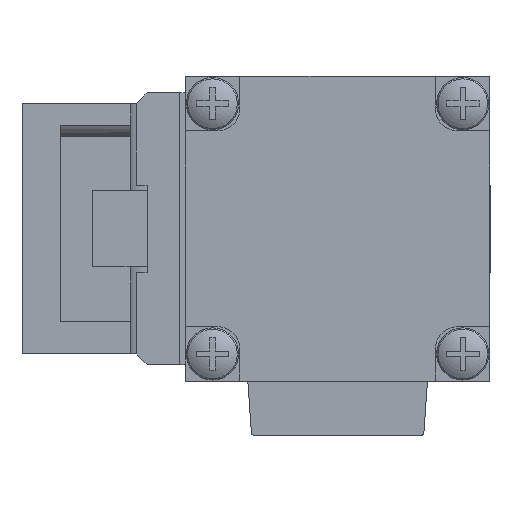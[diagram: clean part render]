
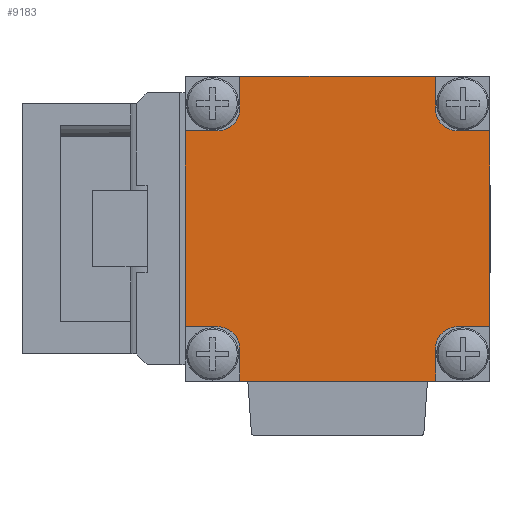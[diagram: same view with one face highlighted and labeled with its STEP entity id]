
A CAD part, left-side view. The second image highlights one B-rep face of the part: STEP entity #9183.
In plain terms, the highlighted planar face has unit normal (-1, 0, 0).
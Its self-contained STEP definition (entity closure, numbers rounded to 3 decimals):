
#307=CIRCLE('',#9806,2.);
#308=CIRCLE('',#9807,2.);
#309=CIRCLE('',#9808,2.);
#310=CIRCLE('',#9809,2.);
#986=ORIENTED_EDGE('',*,*,#3350,.F.);
#987=ORIENTED_EDGE('',*,*,#3489,.T.);
#988=ORIENTED_EDGE('',*,*,#3490,.F.);
#989=ORIENTED_EDGE('',*,*,#3491,.T.);
#990=ORIENTED_EDGE('',*,*,#3284,.F.);
#991=ORIENTED_EDGE('',*,*,#3492,.T.);
#992=ORIENTED_EDGE('',*,*,#3493,.F.);
#993=ORIENTED_EDGE('',*,*,#3494,.T.);
#994=ORIENTED_EDGE('',*,*,#3238,.F.);
#995=ORIENTED_EDGE('',*,*,#3495,.T.);
#996=ORIENTED_EDGE('',*,*,#3496,.F.);
#997=ORIENTED_EDGE('',*,*,#3497,.T.);
#998=ORIENTED_EDGE('',*,*,#3263,.F.);
#999=ORIENTED_EDGE('',*,*,#3498,.T.);
#1000=ORIENTED_EDGE('',*,*,#3499,.F.);
#1001=ORIENTED_EDGE('',*,*,#3500,.T.);
#3238=EDGE_CURVE('',#4522,#4523,#5395,.T.);
#3263=EDGE_CURVE('',#4546,#4547,#5418,.T.);
#3284=EDGE_CURVE('',#4566,#4567,#5437,.T.);
#3350=EDGE_CURVE('',#4628,#4629,#5501,.T.);
#3489=EDGE_CURVE('',#4628,#4725,#5593,.T.);
#3490=EDGE_CURVE('',#4726,#4725,#307,.F.);
#3491=EDGE_CURVE('',#4726,#4567,#5594,.T.);
#3492=EDGE_CURVE('',#4566,#4727,#5595,.T.);
#3493=EDGE_CURVE('',#4728,#4727,#308,.F.);
#3494=EDGE_CURVE('',#4728,#4523,#5596,.T.);
#3495=EDGE_CURVE('',#4522,#4729,#5597,.T.);
#3496=EDGE_CURVE('',#4730,#4729,#309,.F.);
#3497=EDGE_CURVE('',#4730,#4547,#5598,.T.);
#3498=EDGE_CURVE('',#4546,#4731,#5599,.T.);
#3499=EDGE_CURVE('',#4732,#4731,#310,.F.);
#3500=EDGE_CURVE('',#4732,#4629,#5600,.T.);
#4522=VERTEX_POINT('',#13474);
#4523=VERTEX_POINT('',#13476);
#4546=VERTEX_POINT('',#13525);
#4547=VERTEX_POINT('',#13527);
#4566=VERTEX_POINT('',#13568);
#4567=VERTEX_POINT('',#13570);
#4628=VERTEX_POINT('',#13702);
#4629=VERTEX_POINT('',#13704);
#4725=VERTEX_POINT('',#13969);
#4726=VERTEX_POINT('',#13971);
#4727=VERTEX_POINT('',#13974);
#4728=VERTEX_POINT('',#13976);
#4729=VERTEX_POINT('',#13979);
#4730=VERTEX_POINT('',#13981);
#4731=VERTEX_POINT('',#13984);
#4732=VERTEX_POINT('',#13986);
#5395=LINE('',#13475,#6408);
#5418=LINE('',#13526,#6431);
#5437=LINE('',#13569,#6450);
#5501=LINE('',#13703,#6514);
#5593=LINE('',#13968,#6606);
#5594=LINE('',#13972,#6607);
#5595=LINE('',#13973,#6608);
#5596=LINE('',#13977,#6609);
#5597=LINE('',#13978,#6610);
#5598=LINE('',#13982,#6611);
#5599=LINE('',#13983,#6612);
#5600=LINE('',#13987,#6613);
#6408=VECTOR('',#10619,1000.);
#6431=VECTOR('',#10650,1000.);
#6450=VECTOR('',#10677,1000.);
#6514=VECTOR('',#10757,1000.);
#6606=VECTOR('',#11003,1000.);
#6607=VECTOR('',#11006,1000.);
#6608=VECTOR('',#11007,1000.);
#6609=VECTOR('',#11010,1000.);
#6610=VECTOR('',#11011,1000.);
#6611=VECTOR('',#11014,1000.);
#6612=VECTOR('',#11015,1000.);
#6613=VECTOR('',#11018,1000.);
#7389=EDGE_LOOP('',(#986,#987,#988,#989,#990,#991,#992,#993,#994,#995,#996,
#997,#998,#999,#1000,#1001));
#8088=FACE_BOUND('',#7389,.T.);
#8758=PLANE('',#9805);
#9183=ADVANCED_FACE('',(#8088),#8758,.F.);
#9805=AXIS2_PLACEMENT_3D('',#13967,#11001,#11002);
#9806=AXIS2_PLACEMENT_3D('',#13970,#11004,#11005);
#9807=AXIS2_PLACEMENT_3D('',#13975,#11008,#11009);
#9808=AXIS2_PLACEMENT_3D('',#13980,#11012,#11013);
#9809=AXIS2_PLACEMENT_3D('',#13985,#11016,#11017);
#10619=DIRECTION('',(0.,1.,0.));
#10650=DIRECTION('',(0.,0.,-1.));
#10677=DIRECTION('',(0.,0.,1.));
#10757=DIRECTION('',(0.,-1.,0.));
#11001=DIRECTION('',(1.,0.,0.));
#11002=DIRECTION('',(0.,0.,-1.));
#11003=DIRECTION('',(0.,0.,-1.));
#11004=DIRECTION('',(1.,0.,0.));
#11005=DIRECTION('',(0.,0.,-1.));
#11006=DIRECTION('',(0.,1.,0.));
#11007=DIRECTION('',(0.,-1.,0.));
#11008=DIRECTION('',(1.,0.,0.));
#11009=DIRECTION('',(0.,0.,-1.));
#11010=DIRECTION('',(0.,0.,-1.));
#11011=DIRECTION('',(0.,0.,1.));
#11012=DIRECTION('',(1.,0.,0.));
#11013=DIRECTION('',(0.,0.,-1.));
#11014=DIRECTION('',(0.,-1.,0.));
#11015=DIRECTION('',(0.,1.,0.));
#11016=DIRECTION('',(1.,0.,0.));
#11017=DIRECTION('',(0.,0.,-1.));
#11018=DIRECTION('',(0.,0.,1.));
#13474=CARTESIAN_POINT('',(-58.,-9.,-14.));
#13475=CARTESIAN_POINT('',(-58.,-14.,-14.));
#13476=CARTESIAN_POINT('',(-58.,9.,-14.));
#13525=CARTESIAN_POINT('',(-58.,-14.,9.));
#13526=CARTESIAN_POINT('',(-58.,-14.,14.));
#13527=CARTESIAN_POINT('',(-58.,-14.,-9.));
#13568=CARTESIAN_POINT('',(-58.,14.,-9.));
#13569=CARTESIAN_POINT('',(-58.,14.,-14.));
#13570=CARTESIAN_POINT('',(-58.,14.,9.));
#13702=CARTESIAN_POINT('',(-58.,9.,14.));
#13703=CARTESIAN_POINT('',(-58.,14.,14.));
#13704=CARTESIAN_POINT('',(-58.,-9.,14.));
#13967=CARTESIAN_POINT('',(-58.,0.,0.));
#13968=CARTESIAN_POINT('',(-58.,9.,0.));
#13969=CARTESIAN_POINT('',(-58.,9.,11.));
#13970=CARTESIAN_POINT('',(-58.,11.,11.));
#13971=CARTESIAN_POINT('',(-58.,11.,9.));
#13972=CARTESIAN_POINT('',(-58.,0.,9.));
#13973=CARTESIAN_POINT('',(-58.,0.,-9.));
#13974=CARTESIAN_POINT('',(-58.,11.,-9.));
#13975=CARTESIAN_POINT('',(-58.,11.,-11.));
#13976=CARTESIAN_POINT('',(-58.,9.,-11.));
#13977=CARTESIAN_POINT('',(-58.,9.,0.));
#13978=CARTESIAN_POINT('',(-58.,-9.,0.));
#13979=CARTESIAN_POINT('',(-58.,-9.,-11.));
#13980=CARTESIAN_POINT('',(-58.,-11.,-11.));
#13981=CARTESIAN_POINT('',(-58.,-11.,-9.));
#13982=CARTESIAN_POINT('',(-58.,0.,-9.));
#13983=CARTESIAN_POINT('',(-58.,0.,9.));
#13984=CARTESIAN_POINT('',(-58.,-11.,9.));
#13985=CARTESIAN_POINT('',(-58.,-11.,11.));
#13986=CARTESIAN_POINT('',(-58.,-9.,11.));
#13987=CARTESIAN_POINT('',(-58.,-9.,0.));
